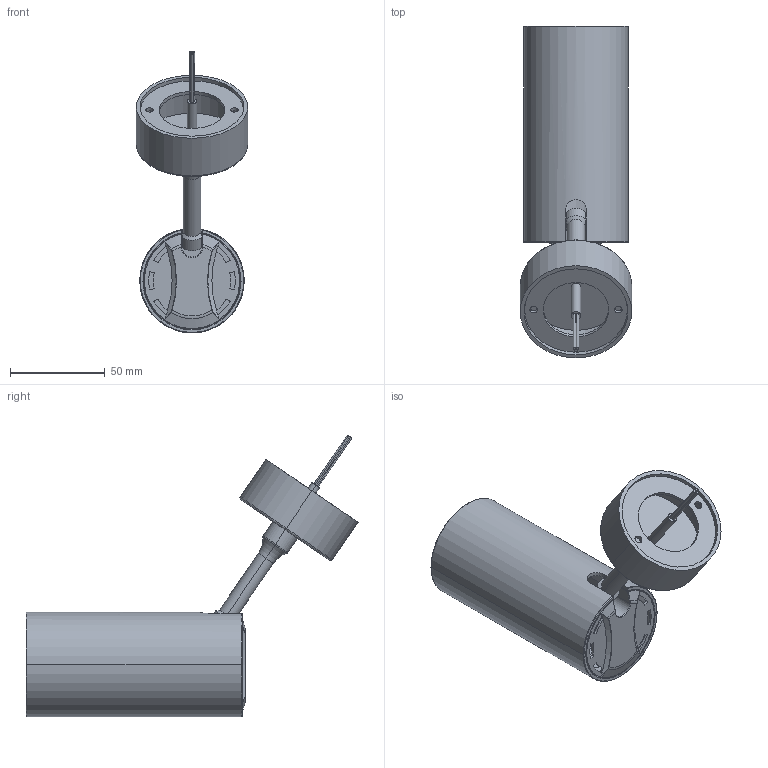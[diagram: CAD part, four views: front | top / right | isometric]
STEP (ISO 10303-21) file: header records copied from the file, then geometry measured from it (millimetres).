
FILE_DESCRIPTION((''),'2;1');
FILE_NAME('ASM0002_ASM','2025-12-13T10:28:27',('Administrator'),(''),'CREO PARAMETRIC BY PTC INC, 2021164','CREO PARAMETRIC BY PTC INC, 2021164','');
FILE_SCHEMA(('CONFIG_CONTROL_DESIGN','SHAPE_APPEARANCE_LAYERS_GROUPS'));
Length unit declared in the file: millimetre
Products named in the file (8): PRT0003; PRT0004; PRT0005; PRT0006; PRT0001; PRT0002; ASM0001_ASM; ASM0002_ASM
Assembly tree (7 placements, depth 3):
  ASM0002_ASM
    PRT0003
    PRT0004
    PRT0005
    PRT0006
    ASM0001_ASM
      PRT0001
      PRT0002
Bounding box: 59 x 175.62 x 149.16 mm (x, y, z)
Volume: 90005.1 mm3; surface area: 76443 mm2
Topology: 6 solids, 6 shells, 190 faces, 467 edges, 292 vertices
Faces by surface type: cylinder 83, plane 40, torus 27, bspline 18, cone 16, sphere 6
Entity records: 9377 total; most frequent: CARTESIAN_POINT 1822, DIRECTION 1054, ORIENTED_EDGE 934, PRESENTATION_STYLE_ASSIGNMENT 663, STYLED_ITEM 659, CURVE_STYLE 467, EDGE_CURVE 467, AXIS2_PLACEMENT_3D 458
